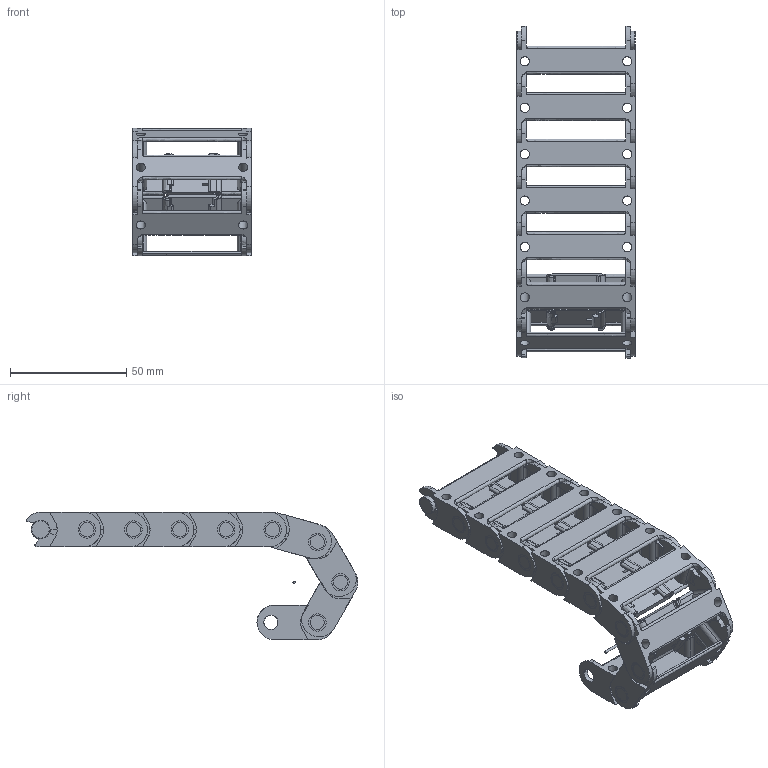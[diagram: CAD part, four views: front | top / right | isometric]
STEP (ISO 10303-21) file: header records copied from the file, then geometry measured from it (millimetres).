
FILE_DESCRIPTION((''),'2;1');
FILE_NAME('C:\Uebbing\PARAMETERKETTEN\KOLIBRI\Kol_15_051_0\Kol_15_051_0_R20.stp','2012-03-02T15:23:27',('Uebbing'),(''),'Autodesk Inventor 10','Autodesk Inventor 10','');
FILE_SCHEMA(('AUTOMOTIVE_DESIGN { 1 0 10303 214 1 1 1 1 }'));
Length unit declared in the file: millimetre
Products named in the file (5): KOLIBRI 15_051_0_PARAMETRISCH; Kol_15_051_0; Kol_15_051_0DECKEL01; Achse
Assembly tree (12 placements, depth 3):
  KOLIBRI 15_051_0_PARAMETRISCH
    Kol_15_051_0  x9
      Kol_15_051_0
      Kol_15_051_0DECKEL01
    Achse
Bounding box: 51 x 142.99 x 55 mm (x, y, z)
Volume: 40549.3 mm3; surface area: 47209.4 mm2
Topology: 19 solids, 19 shells, 2064 faces, 5845 edges, 3738 vertices
Faces by surface type: bspline 1062, plane 614, cylinder 352, cone 36
Full cylindrical faces by diameter (mm): 1 x1, 2 x36, 6.1 x9, 8 x9
Entity records: 11581 total; most frequent: CARTESIAN_POINT 5767, ORIENTED_EDGE 1266, DIRECTION 1078, EDGE_CURVE 633, VERTEX_POINT 416, VECTOR 374, LINE 374, AXIS2_PLACEMENT_3D 352
